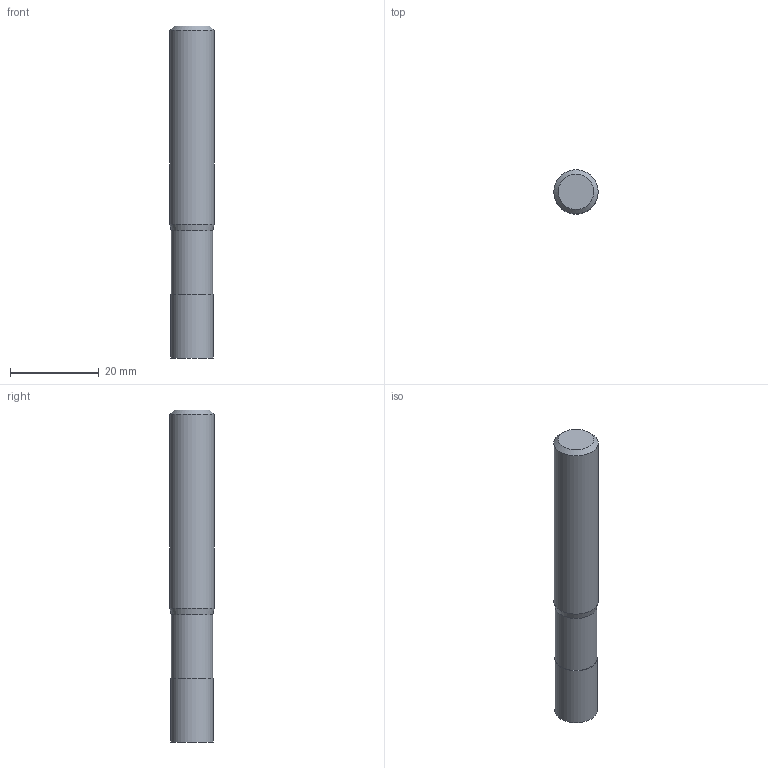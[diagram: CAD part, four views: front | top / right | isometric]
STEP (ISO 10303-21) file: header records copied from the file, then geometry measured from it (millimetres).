
FILE_DESCRIPTION((''),'2;1');
FILE_NAME('C:\Users\nsx150\AppData\Local\Temp\Mastercam 2021\EUJSUNXURU\TEMP.step','2021-04-22T10:29:49',(''),(''),'STEP Write','Mastercam 2021 ... CNC Software, Inc.','');
FILE_SCHEMA(('AUTOMOTIVE_DESIGN'));
Length unit declared in the file: millimetre
Products named in the file (1): None
Bounding box: 10 x 10 x 75 mm (x, y, z)
Volume: 5649 mm3; surface area: 2583.6 mm2
Topology: 2 solids, 2 shells, 9 faces, 12 edges, 7 vertices
Faces by surface type: plane 4, cylinder 3, cone 2
Full cylindrical faces by diameter (mm): 9.4 x1, 9.6 x1, 10 x1
Entity records: 211 total; most frequent: DIRECTION 36, CARTESIAN_POINT 25, AXIS2_PLACEMENT_3D 18, ORIENTED_EDGE 14, EDGE_LOOP 14, STYLED_ITEM 12, ADVANCED_FACE 9, FACE_BOUND 8
